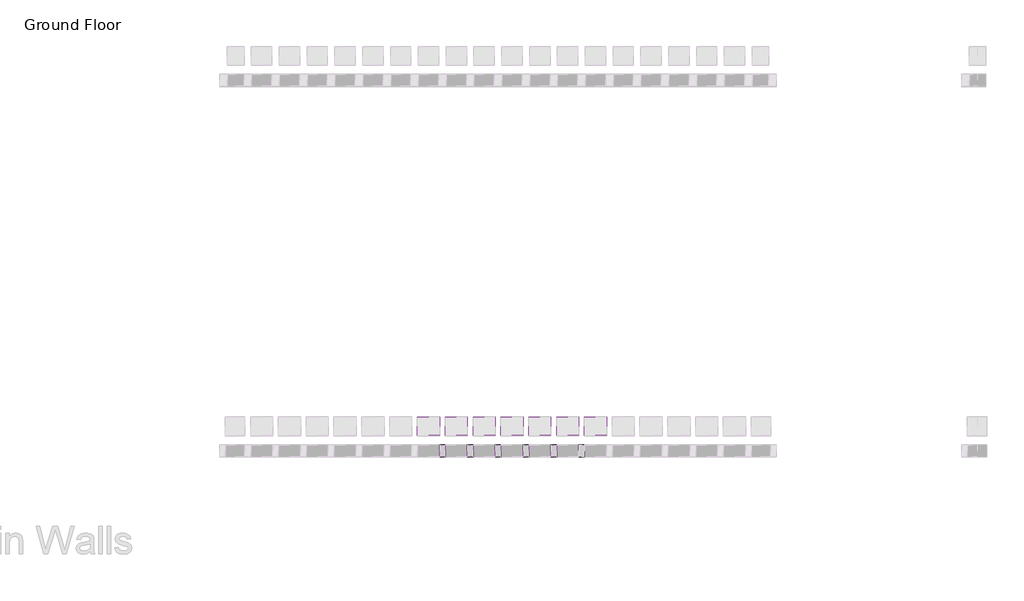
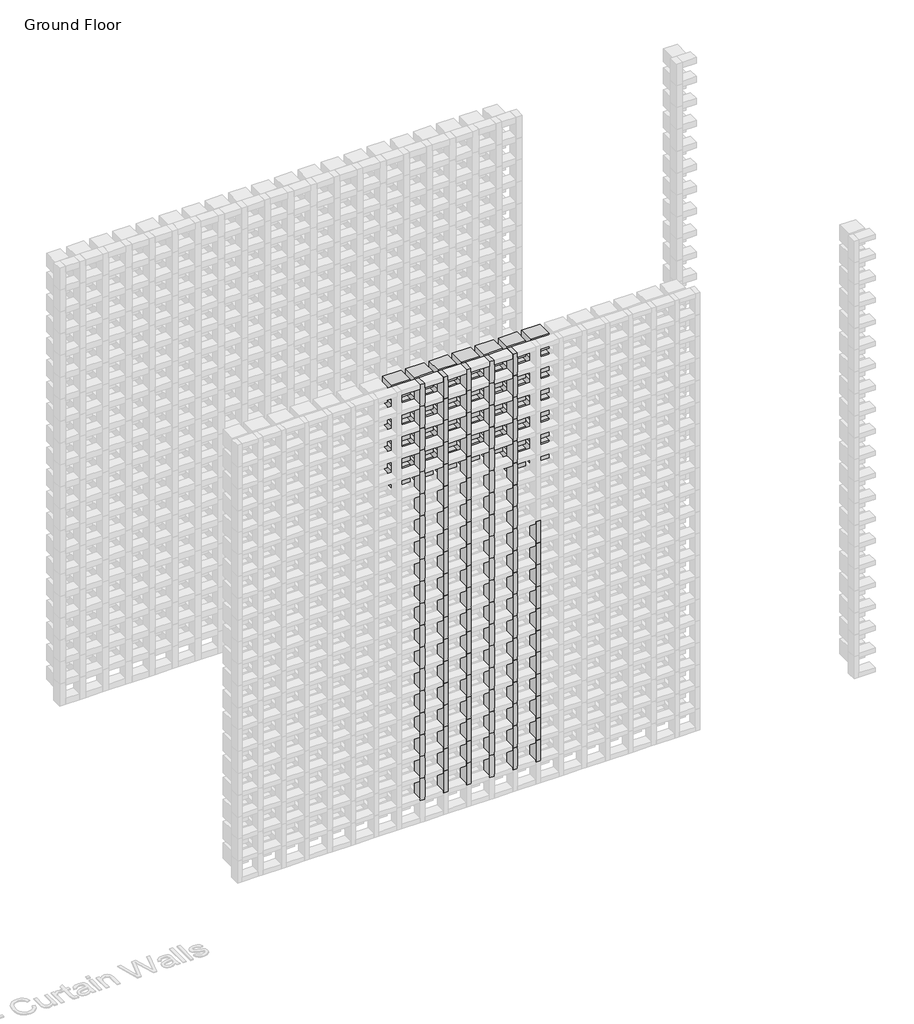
# One storey, part 59 of 350: 106 members, 37 plates.
"""IFC4 building model written with IfcOpenShell, lengths in millimetres."""

from ifc_helpers import new_model, si_unit, origin, place, context, project, spatial, transform, mapped, element, save
from components import rectangular_mullion_5b501421, empty_system_panel_empty_a57e421f, empty_system_panel_empty_fe50b430

model = new_model("IFC4")

# Units and contexts
model_context = context("Model", 3, world=origin())
ifc_project = project(units=[si_unit("LENGTHUNIT", "METRE", prefix="MILLI")], contexts=[model_context])

# Site, building, storey
site = spatial("IfcSite", under=ifc_project)
building = spatial("IfcBuilding", under=site)
storey = spatial("IfcBuildingStorey", under=building, Name="Ground Floor", Elevation=0.0)

# Members
placement = place(None, origin())
rectangular_mullion_shape = rectangular_mullion_5b501421(model_context)
element("IfcMember", 1, ObjectType="Rectangular Mullion : Batten_Timber_Modinex_Austratus_Grid_Fascia_30x65_Blackbutt", at=placement, inside=storey, context=model_context, shape_type="MappedRepresentation", body=[
    mapped(rectangular_mullion_shape, transform((7116.4361642, 38968.2978302, 150.0), x_axis=(1.0, 0.0, 0.0), y_axis=(0.0, -1.0, 0.0), z_axis=(0.0, 0.0, -1.0))),
])
element("IfcMember", 2, ObjectType="Rectangular Mullion : Batten_Timber_Modinex_Austratus_Grid_Fascia_30x65_Blackbutt", at=placement, inside=storey, context=model_context, shape_type="MappedRepresentation", body=[
    mapped(rectangular_mullion_shape, transform((7116.4361642, 38968.2978302, 300.0), x_axis=(1.0, 0.0, 0.0), y_axis=(0.0, -1.0, 0.0), z_axis=(0.0, 0.0, -1.0))),
])
element("IfcMember", 3, ObjectType="Rectangular Mullion : Batten_Timber_Modinex_Austratus_Grid_Fascia_30x65_Blackbutt", at=placement, inside=storey, context=model_context, shape_type="MappedRepresentation", body=[
    mapped(rectangular_mullion_shape, transform((7116.4361642, 38968.2978302, 450.0), x_axis=(1.0, 0.0, 0.0), y_axis=(0.0, -1.0, 0.0), z_axis=(0.0, 0.0, -1.0))),
])
element("IfcMember", 4, ObjectType="Rectangular Mullion : Batten_Timber_Modinex_Austratus_Grid_Fascia_30x65_Blackbutt", at=placement, inside=storey, context=model_context, shape_type="MappedRepresentation", body=[
    mapped(rectangular_mullion_shape, transform((7116.4361642, 38968.2978302, 600.0), x_axis=(1.0, 0.0, 0.0), y_axis=(0.0, -1.0, 0.0), z_axis=(0.0, 0.0, -1.0))),
])
element("IfcMember", 5, ObjectType="Rectangular Mullion : Batten_Timber_Modinex_Austratus_Grid_Fascia_30x65_Blackbutt", at=placement, inside=storey, context=model_context, shape_type="MappedRepresentation", body=[
    mapped(rectangular_mullion_shape, transform((7116.4361642, 38968.2978302, 750.0), x_axis=(1.0, 0.0, 0.0), y_axis=(0.0, -1.0, 0.0), z_axis=(0.0, 0.0, -1.0))),
])
element("IfcMember", 6, ObjectType="Rectangular Mullion : Batten_Timber_Modinex_Austratus_Grid_Fascia_30x65_Blackbutt", at=placement, inside=storey, context=model_context, shape_type="MappedRepresentation", body=[
    mapped(rectangular_mullion_shape, transform((7116.4361642, 38968.2978302, 900.0), x_axis=(1.0, 0.0, 0.0), y_axis=(0.0, -1.0, 0.0), z_axis=(0.0, 0.0, -1.0))),
])
element("IfcMember", 7, ObjectType="Rectangular Mullion : Batten_Timber_Modinex_Austratus_Grid_Fascia_30x65_Blackbutt", at=placement, inside=storey, context=model_context, shape_type="MappedRepresentation", body=[
    mapped(rectangular_mullion_shape, transform((7116.4361642, 38968.2978302, 1050.0), x_axis=(1.0, 0.0, 0.0), y_axis=(0.0, -1.0, 0.0), z_axis=(0.0, 0.0, -1.0))),
])
element("IfcMember", 8, ObjectType="Rectangular Mullion : Batten_Timber_Modinex_Austratus_Grid_Fascia_30x65_Blackbutt", at=placement, inside=storey, context=model_context, shape_type="MappedRepresentation", body=[
    mapped(rectangular_mullion_shape, transform((7116.4361642, 38968.2978302, 1200.0), x_axis=(1.0, 0.0, 0.0), y_axis=(0.0, -1.0, 0.0), z_axis=(0.0, 0.0, -1.0))),
])
element("IfcMember", 9, ObjectType="Rectangular Mullion : Batten_Timber_Modinex_Austratus_Grid_Fascia_30x65_Blackbutt", at=placement, inside=storey, context=model_context, shape_type="MappedRepresentation", body=[
    mapped(rectangular_mullion_shape, transform((7116.4361642, 38968.2978302, 1350.0), x_axis=(1.0, 0.0, 0.0), y_axis=(0.0, -1.0, 0.0), z_axis=(0.0, 0.0, -1.0))),
])
element("IfcMember", 10, ObjectType="Rectangular Mullion : Batten_Timber_Modinex_Austratus_Grid_Fascia_30x65_Blackbutt", at=placement, inside=storey, context=model_context, shape_type="MappedRepresentation", body=[
    mapped(rectangular_mullion_shape, transform((7116.4361642, 38968.2978302, 1500.0), x_axis=(1.0, 0.0, 0.0), y_axis=(0.0, -1.0, 0.0), z_axis=(0.0, 0.0, -1.0))),
])
element("IfcMember", 11, ObjectType="Rectangular Mullion : Batten_Timber_Modinex_Austratus_Grid_Fascia_30x65_Blackbutt", at=placement, inside=storey, context=model_context, shape_type="MappedRepresentation", body=[
    mapped(rectangular_mullion_shape, transform((7116.4361642, 38968.2978302, 1650.0), x_axis=(1.0, 0.0, 0.0), y_axis=(0.0, -1.0, 0.0), z_axis=(0.0, 0.0, -1.0))),
])
element("IfcMember", 12, ObjectType="Rectangular Mullion : Batten_Timber_Modinex_Austratus_Grid_Fascia_30x65_Blackbutt", at=placement, inside=storey, context=model_context, shape_type="MappedRepresentation", body=[
    mapped(rectangular_mullion_shape, transform((7116.4361642, 38968.2978302, 1800.0), x_axis=(1.0, 0.0, 0.0), y_axis=(0.0, -1.0, 0.0), z_axis=(0.0, 0.0, -1.0))),
])
element("IfcMember", 13, ObjectType="Rectangular Mullion : Batten_Timber_Modinex_Austratus_Grid_Fascia_30x65_Blackbutt", at=placement, inside=storey, context=model_context, shape_type="MappedRepresentation", body=[
    mapped(rectangular_mullion_shape, transform((7116.4361642, 38968.2978302, 1950.0), x_axis=(1.0, 0.0, 0.0), y_axis=(0.0, -1.0, 0.0), z_axis=(0.0, 0.0, -1.0))),
])
element("IfcMember", 14, ObjectType="Rectangular Mullion : Batten_Timber_Modinex_Austratus_Grid_Fascia_30x65_Blackbutt", at=placement, inside=storey, context=model_context, shape_type="MappedRepresentation", body=[
    mapped(rectangular_mullion_shape, transform((7116.4361642, 38968.2978302, 2100.0), x_axis=(1.0, 0.0, 0.0), y_axis=(0.0, -1.0, 0.0), z_axis=(0.0, 0.0, -1.0))),
])
element("IfcMember", 15, ObjectType="Rectangular Mullion : Batten_Timber_Modinex_Austratus_Grid_Fascia_30x65_Blackbutt", at=placement, inside=storey, context=model_context, shape_type="MappedRepresentation", body=[
    mapped(rectangular_mullion_shape, transform((7116.4361642, 38968.2978302, 2250.0), x_axis=(1.0, 0.0, 0.0), y_axis=(0.0, -1.0, 0.0), z_axis=(0.0, 0.0, -1.0))),
])
element("IfcMember", 16, ObjectType="Rectangular Mullion : Batten_Timber_Modinex_Austratus_Grid_Fascia_30x65_Blackbutt", at=placement, inside=storey, context=model_context, shape_type="MappedRepresentation", body=[
    mapped(rectangular_mullion_shape, transform((7116.4361642, 38968.2978302, 2400.0), x_axis=(1.0, 0.0, 0.0), y_axis=(0.0, -1.0, 0.0), z_axis=(0.0, 0.0, -1.0))),
])
element("IfcMember", 17, ObjectType="Rectangular Mullion : Batten_Timber_Modinex_Austratus_Grid_Fascia_30x65_Blackbutt", at=placement, inside=storey, context=model_context, shape_type="MappedRepresentation", body=[
    mapped(rectangular_mullion_shape, transform((7116.4361642, 38968.2978302, 2550.0), x_axis=(1.0, 0.0, 0.0), y_axis=(0.0, -1.0, 0.0), z_axis=(0.0, 0.0, -1.0))),
])
element("IfcMember", 18, ObjectType="Rectangular Mullion : Batten_Timber_Modinex_Austratus_Grid_Fascia_30x65_Blackbutt", at=placement, inside=storey, context=model_context, shape_type="MappedRepresentation", body=[
    mapped(rectangular_mullion_shape, transform((7116.4361642, 38968.2978302, 2700.0), x_axis=(1.0, 0.0, 0.0), y_axis=(0.0, -1.0, 0.0), z_axis=(0.0, 0.0, -1.0))),
])
element("IfcMember", 19, ObjectType="Rectangular Mullion : Batten_Timber_Modinex_Austratus_Grid_Fascia_30x65_Blackbutt", at=placement, inside=storey, context=model_context, shape_type="MappedRepresentation", body=[
    mapped(rectangular_mullion_shape, transform((7266.4361642, 38968.2978302, 150.0), x_axis=(1.0, 0.0, 0.0), y_axis=(0.0, -1.0, 0.0), z_axis=(0.0, 0.0, -1.0))),
])
element("IfcMember", 20, ObjectType="Rectangular Mullion : Batten_Timber_Modinex_Austratus_Grid_Fascia_30x65_Blackbutt", at=placement, inside=storey, context=model_context, shape_type="MappedRepresentation", body=[
    mapped(rectangular_mullion_shape, transform((7266.4361642, 38968.2978302, 300.0), x_axis=(1.0, 0.0, 0.0), y_axis=(0.0, -1.0, 0.0), z_axis=(0.0, 0.0, -1.0))),
])
element("IfcMember", 21, ObjectType="Rectangular Mullion : Batten_Timber_Modinex_Austratus_Grid_Fascia_30x65_Blackbutt", at=placement, inside=storey, context=model_context, shape_type="MappedRepresentation", body=[
    mapped(rectangular_mullion_shape, transform((7266.4361642, 38968.2978302, 450.0), x_axis=(1.0, 0.0, 0.0), y_axis=(0.0, -1.0, 0.0), z_axis=(0.0, 0.0, -1.0))),
])
element("IfcMember", 22, ObjectType="Rectangular Mullion : Batten_Timber_Modinex_Austratus_Grid_Fascia_30x65_Blackbutt", at=placement, inside=storey, context=model_context, shape_type="MappedRepresentation", body=[
    mapped(rectangular_mullion_shape, transform((7266.4361642, 38968.2978302, 600.0), x_axis=(1.0, 0.0, 0.0), y_axis=(0.0, -1.0, 0.0), z_axis=(0.0, 0.0, -1.0))),
])
element("IfcMember", 23, ObjectType="Rectangular Mullion : Batten_Timber_Modinex_Austratus_Grid_Fascia_30x65_Blackbutt", at=placement, inside=storey, context=model_context, shape_type="MappedRepresentation", body=[
    mapped(rectangular_mullion_shape, transform((7266.4361642, 38968.2978302, 750.0), x_axis=(1.0, 0.0, 0.0), y_axis=(0.0, -1.0, 0.0), z_axis=(0.0, 0.0, -1.0))),
])
element("IfcMember", 24, ObjectType="Rectangular Mullion : Batten_Timber_Modinex_Austratus_Grid_Fascia_30x65_Blackbutt", at=placement, inside=storey, context=model_context, shape_type="MappedRepresentation", body=[
    mapped(rectangular_mullion_shape, transform((7266.4361642, 38968.2978302, 900.0), x_axis=(1.0, 0.0, 0.0), y_axis=(0.0, -1.0, 0.0), z_axis=(0.0, 0.0, -1.0))),
])
element("IfcMember", 25, ObjectType="Rectangular Mullion : Batten_Timber_Modinex_Austratus_Grid_Fascia_30x65_Blackbutt", at=placement, inside=storey, context=model_context, shape_type="MappedRepresentation", body=[
    mapped(rectangular_mullion_shape, transform((7266.4361642, 38968.2978302, 1050.0), x_axis=(1.0, 0.0, 0.0), y_axis=(0.0, -1.0, 0.0), z_axis=(0.0, 0.0, -1.0))),
])
element("IfcMember", 26, ObjectType="Rectangular Mullion : Batten_Timber_Modinex_Austratus_Grid_Fascia_30x65_Blackbutt", at=placement, inside=storey, context=model_context, shape_type="MappedRepresentation", body=[
    mapped(rectangular_mullion_shape, transform((7266.4361642, 38968.2978302, 1200.0), x_axis=(1.0, 0.0, 0.0), y_axis=(0.0, -1.0, 0.0), z_axis=(0.0, 0.0, -1.0))),
])
element("IfcMember", 27, ObjectType="Rectangular Mullion : Batten_Timber_Modinex_Austratus_Grid_Fascia_30x65_Blackbutt", at=placement, inside=storey, context=model_context, shape_type="MappedRepresentation", body=[
    mapped(rectangular_mullion_shape, transform((7266.4361642, 38968.2978302, 1350.0), x_axis=(1.0, 0.0, 0.0), y_axis=(0.0, -1.0, 0.0), z_axis=(0.0, 0.0, -1.0))),
])
element("IfcMember", 28, ObjectType="Rectangular Mullion : Batten_Timber_Modinex_Austratus_Grid_Fascia_30x65_Blackbutt", at=placement, inside=storey, context=model_context, shape_type="MappedRepresentation", body=[
    mapped(rectangular_mullion_shape, transform((7266.4361642, 38968.2978302, 1500.0), x_axis=(1.0, 0.0, 0.0), y_axis=(0.0, -1.0, 0.0), z_axis=(0.0, 0.0, -1.0))),
])
element("IfcMember", 29, ObjectType="Rectangular Mullion : Batten_Timber_Modinex_Austratus_Grid_Fascia_30x65_Blackbutt", at=placement, inside=storey, context=model_context, shape_type="MappedRepresentation", body=[
    mapped(rectangular_mullion_shape, transform((7266.4361642, 38968.2978302, 1650.0), x_axis=(1.0, 0.0, 0.0), y_axis=(0.0, -1.0, 0.0), z_axis=(0.0, 0.0, -1.0))),
])
element("IfcMember", 30, ObjectType="Rectangular Mullion : Batten_Timber_Modinex_Austratus_Grid_Fascia_30x65_Blackbutt", at=placement, inside=storey, context=model_context, shape_type="MappedRepresentation", body=[
    mapped(rectangular_mullion_shape, transform((7266.4361642, 38968.2978302, 1800.0), x_axis=(1.0, 0.0, 0.0), y_axis=(0.0, -1.0, 0.0), z_axis=(0.0, 0.0, -1.0))),
])
element("IfcMember", 31, ObjectType="Rectangular Mullion : Batten_Timber_Modinex_Austratus_Grid_Fascia_30x65_Blackbutt", at=placement, inside=storey, context=model_context, shape_type="MappedRepresentation", body=[
    mapped(rectangular_mullion_shape, transform((7266.4361642, 38968.2978302, 1950.0), x_axis=(1.0, 0.0, 0.0), y_axis=(0.0, -1.0, 0.0), z_axis=(0.0, 0.0, -1.0))),
])
element("IfcMember", 32, ObjectType="Rectangular Mullion : Batten_Timber_Modinex_Austratus_Grid_Fascia_30x65_Blackbutt", at=placement, inside=storey, context=model_context, shape_type="MappedRepresentation", body=[
    mapped(rectangular_mullion_shape, transform((7266.4361642, 38968.2978302, 2100.0), x_axis=(1.0, 0.0, 0.0), y_axis=(0.0, -1.0, 0.0), z_axis=(0.0, 0.0, -1.0))),
])
element("IfcMember", 33, ObjectType="Rectangular Mullion : Batten_Timber_Modinex_Austratus_Grid_Fascia_30x65_Blackbutt", at=placement, inside=storey, context=model_context, shape_type="MappedRepresentation", body=[
    mapped(rectangular_mullion_shape, transform((7266.4361642, 38968.2978302, 2250.0), x_axis=(1.0, 0.0, 0.0), y_axis=(0.0, -1.0, 0.0), z_axis=(0.0, 0.0, -1.0))),
])
element("IfcMember", 34, ObjectType="Rectangular Mullion : Batten_Timber_Modinex_Austratus_Grid_Fascia_30x65_Blackbutt", at=placement, inside=storey, context=model_context, shape_type="MappedRepresentation", body=[
    mapped(rectangular_mullion_shape, transform((7266.4361642, 38968.2978302, 2400.0), x_axis=(1.0, 0.0, 0.0), y_axis=(0.0, -1.0, 0.0), z_axis=(0.0, 0.0, -1.0))),
])
element("IfcMember", 35, ObjectType="Rectangular Mullion : Batten_Timber_Modinex_Austratus_Grid_Fascia_30x65_Blackbutt", at=placement, inside=storey, context=model_context, shape_type="MappedRepresentation", body=[
    mapped(rectangular_mullion_shape, transform((7266.4361642, 38968.2978302, 2550.0), x_axis=(1.0, 0.0, 0.0), y_axis=(0.0, -1.0, 0.0), z_axis=(0.0, 0.0, -1.0))),
])
element("IfcMember", 36, ObjectType="Rectangular Mullion : Batten_Timber_Modinex_Austratus_Grid_Fascia_30x65_Blackbutt", at=placement, inside=storey, context=model_context, shape_type="MappedRepresentation", body=[
    mapped(rectangular_mullion_shape, transform((7266.4361642, 38968.2978302, 2700.0), x_axis=(1.0, 0.0, 0.0), y_axis=(0.0, -1.0, 0.0), z_axis=(0.0, 0.0, -1.0))),
])
element("IfcMember", 37, ObjectType="Rectangular Mullion : Batten_Timber_Modinex_Austratus_Grid_Fascia_30x65_Blackbutt", at=placement, inside=storey, context=model_context, shape_type="MappedRepresentation", body=[
    mapped(rectangular_mullion_shape, transform((7416.4361642, 38968.2978302, 150.0), x_axis=(1.0, 0.0, 0.0), y_axis=(0.0, -1.0, 0.0), z_axis=(0.0, 0.0, -1.0))),
])
element("IfcMember", 38, ObjectType="Rectangular Mullion : Batten_Timber_Modinex_Austratus_Grid_Fascia_30x65_Blackbutt", at=placement, inside=storey, context=model_context, shape_type="MappedRepresentation", body=[
    mapped(rectangular_mullion_shape, transform((7416.4361642, 38968.2978302, 300.0), x_axis=(1.0, 0.0, 0.0), y_axis=(0.0, -1.0, 0.0), z_axis=(0.0, 0.0, -1.0))),
])
element("IfcMember", 39, ObjectType="Rectangular Mullion : Batten_Timber_Modinex_Austratus_Grid_Fascia_30x65_Blackbutt", at=placement, inside=storey, context=model_context, shape_type="MappedRepresentation", body=[
    mapped(rectangular_mullion_shape, transform((7416.4361642, 38968.2978302, 450.0), x_axis=(1.0, 0.0, 0.0), y_axis=(0.0, -1.0, 0.0), z_axis=(0.0, 0.0, -1.0))),
])
element("IfcMember", 40, ObjectType="Rectangular Mullion : Batten_Timber_Modinex_Austratus_Grid_Fascia_30x65_Blackbutt", at=placement, inside=storey, context=model_context, shape_type="MappedRepresentation", body=[
    mapped(rectangular_mullion_shape, transform((7416.4361642, 38968.2978302, 600.0), x_axis=(1.0, 0.0, 0.0), y_axis=(0.0, -1.0, 0.0), z_axis=(0.0, 0.0, -1.0))),
])
element("IfcMember", 41, ObjectType="Rectangular Mullion : Batten_Timber_Modinex_Austratus_Grid_Fascia_30x65_Blackbutt", at=placement, inside=storey, context=model_context, shape_type="MappedRepresentation", body=[
    mapped(rectangular_mullion_shape, transform((7416.4361642, 38968.2978302, 750.0), x_axis=(1.0, 0.0, 0.0), y_axis=(0.0, -1.0, 0.0), z_axis=(0.0, 0.0, -1.0))),
])
element("IfcMember", 42, ObjectType="Rectangular Mullion : Batten_Timber_Modinex_Austratus_Grid_Fascia_30x65_Blackbutt", at=placement, inside=storey, context=model_context, shape_type="MappedRepresentation", body=[
    mapped(rectangular_mullion_shape, transform((7416.4361642, 38968.2978302, 900.0), x_axis=(1.0, 0.0, 0.0), y_axis=(0.0, -1.0, 0.0), z_axis=(0.0, 0.0, -1.0))),
])
element("IfcMember", 43, ObjectType="Rectangular Mullion : Batten_Timber_Modinex_Austratus_Grid_Fascia_30x65_Blackbutt", at=placement, inside=storey, context=model_context, shape_type="MappedRepresentation", body=[
    mapped(rectangular_mullion_shape, transform((7416.4361642, 38968.2978302, 1050.0), x_axis=(1.0, 0.0, 0.0), y_axis=(0.0, -1.0, 0.0), z_axis=(0.0, 0.0, -1.0))),
])
element("IfcMember", 44, ObjectType="Rectangular Mullion : Batten_Timber_Modinex_Austratus_Grid_Fascia_30x65_Blackbutt", at=placement, inside=storey, context=model_context, shape_type="MappedRepresentation", body=[
    mapped(rectangular_mullion_shape, transform((7416.4361642, 38968.2978302, 1200.0), x_axis=(1.0, 0.0, 0.0), y_axis=(0.0, -1.0, 0.0), z_axis=(0.0, 0.0, -1.0))),
])
element("IfcMember", 45, ObjectType="Rectangular Mullion : Batten_Timber_Modinex_Austratus_Grid_Fascia_30x65_Blackbutt", at=placement, inside=storey, context=model_context, shape_type="MappedRepresentation", body=[
    mapped(rectangular_mullion_shape, transform((7416.4361642, 38968.2978302, 1350.0), x_axis=(1.0, 0.0, 0.0), y_axis=(0.0, -1.0, 0.0), z_axis=(0.0, 0.0, -1.0))),
])
element("IfcMember", 46, ObjectType="Rectangular Mullion : Batten_Timber_Modinex_Austratus_Grid_Fascia_30x65_Blackbutt", at=placement, inside=storey, context=model_context, shape_type="MappedRepresentation", body=[
    mapped(rectangular_mullion_shape, transform((7416.4361642, 38968.2978302, 1500.0), x_axis=(1.0, 0.0, 0.0), y_axis=(0.0, -1.0, 0.0), z_axis=(0.0, 0.0, -1.0))),
])
element("IfcMember", 47, ObjectType="Rectangular Mullion : Batten_Timber_Modinex_Austratus_Grid_Fascia_30x65_Blackbutt", at=placement, inside=storey, context=model_context, shape_type="MappedRepresentation", body=[
    mapped(rectangular_mullion_shape, transform((7416.4361642, 38968.2978302, 1650.0), x_axis=(1.0, 0.0, 0.0), y_axis=(0.0, -1.0, 0.0), z_axis=(0.0, 0.0, -1.0))),
])
element("IfcMember", 48, ObjectType="Rectangular Mullion : Batten_Timber_Modinex_Austratus_Grid_Fascia_30x65_Blackbutt", at=placement, inside=storey, context=model_context, shape_type="MappedRepresentation", body=[
    mapped(rectangular_mullion_shape, transform((7416.4361642, 38968.2978302, 1800.0), x_axis=(1.0, 0.0, 0.0), y_axis=(0.0, -1.0, 0.0), z_axis=(0.0, 0.0, -1.0))),
])
element("IfcMember", 49, ObjectType="Rectangular Mullion : Batten_Timber_Modinex_Austratus_Grid_Fascia_30x65_Blackbutt", at=placement, inside=storey, context=model_context, shape_type="MappedRepresentation", body=[
    mapped(rectangular_mullion_shape, transform((7416.4361642, 38968.2978302, 1950.0), x_axis=(1.0, 0.0, 0.0), y_axis=(0.0, -1.0, 0.0), z_axis=(0.0, 0.0, -1.0))),
])
element("IfcMember", 50, ObjectType="Rectangular Mullion : Batten_Timber_Modinex_Austratus_Grid_Fascia_30x65_Blackbutt", at=placement, inside=storey, context=model_context, shape_type="MappedRepresentation", body=[
    mapped(rectangular_mullion_shape, transform((7416.4361642, 38968.2978302, 2100.0), x_axis=(1.0, 0.0, 0.0), y_axis=(0.0, -1.0, 0.0), z_axis=(0.0, 0.0, -1.0))),
])
element("IfcMember", 51, ObjectType="Rectangular Mullion : Batten_Timber_Modinex_Austratus_Grid_Fascia_30x65_Blackbutt", at=placement, inside=storey, context=model_context, shape_type="MappedRepresentation", body=[
    mapped(rectangular_mullion_shape, transform((7416.4361642, 38968.2978302, 2250.0), x_axis=(1.0, 0.0, 0.0), y_axis=(0.0, -1.0, 0.0), z_axis=(0.0, 0.0, -1.0))),
])
element("IfcMember", 52, ObjectType="Rectangular Mullion : Batten_Timber_Modinex_Austratus_Grid_Fascia_30x65_Blackbutt", at=placement, inside=storey, context=model_context, shape_type="MappedRepresentation", body=[
    mapped(rectangular_mullion_shape, transform((7416.4361642, 38968.2978302, 2400.0), x_axis=(1.0, 0.0, 0.0), y_axis=(0.0, -1.0, 0.0), z_axis=(0.0, 0.0, -1.0))),
])
element("IfcMember", 53, ObjectType="Rectangular Mullion : Batten_Timber_Modinex_Austratus_Grid_Fascia_30x65_Blackbutt", at=placement, inside=storey, context=model_context, shape_type="MappedRepresentation", body=[
    mapped(rectangular_mullion_shape, transform((7416.4361642, 38968.2978302, 2550.0), x_axis=(1.0, 0.0, 0.0), y_axis=(0.0, -1.0, 0.0), z_axis=(0.0, 0.0, -1.0))),
])
element("IfcMember", 54, ObjectType="Rectangular Mullion : Batten_Timber_Modinex_Austratus_Grid_Fascia_30x65_Blackbutt", at=placement, inside=storey, context=model_context, shape_type="MappedRepresentation", body=[
    mapped(rectangular_mullion_shape, transform((7416.4361642, 38968.2978302, 2700.0), x_axis=(1.0, 0.0, 0.0), y_axis=(0.0, -1.0, 0.0), z_axis=(0.0, 0.0, -1.0))),
])
element("IfcMember", 55, ObjectType="Rectangular Mullion : Batten_Timber_Modinex_Austratus_Grid_Fascia_30x65_Blackbutt", at=placement, inside=storey, context=model_context, shape_type="MappedRepresentation", body=[
    mapped(rectangular_mullion_shape, transform((7566.4361642, 38968.2978302, 150.0), x_axis=(1.0, 0.0, 0.0), y_axis=(0.0, -1.0, 0.0), z_axis=(0.0, 0.0, -1.0))),
])
element("IfcMember", 56, ObjectType="Rectangular Mullion : Batten_Timber_Modinex_Austratus_Grid_Fascia_30x65_Blackbutt", at=placement, inside=storey, context=model_context, shape_type="MappedRepresentation", body=[
    mapped(rectangular_mullion_shape, transform((7566.4361642, 38968.2978302, 300.0), x_axis=(1.0, 0.0, 0.0), y_axis=(0.0, -1.0, 0.0), z_axis=(0.0, 0.0, -1.0))),
])
element("IfcMember", 57, ObjectType="Rectangular Mullion : Batten_Timber_Modinex_Austratus_Grid_Fascia_30x65_Blackbutt", at=placement, inside=storey, context=model_context, shape_type="MappedRepresentation", body=[
    mapped(rectangular_mullion_shape, transform((7566.4361642, 38968.2978302, 450.0), x_axis=(1.0, 0.0, 0.0), y_axis=(0.0, -1.0, 0.0), z_axis=(0.0, 0.0, -1.0))),
])
element("IfcMember", 58, ObjectType="Rectangular Mullion : Batten_Timber_Modinex_Austratus_Grid_Fascia_30x65_Blackbutt", at=placement, inside=storey, context=model_context, shape_type="MappedRepresentation", body=[
    mapped(rectangular_mullion_shape, transform((7566.4361642, 38968.2978302, 600.0), x_axis=(1.0, 0.0, 0.0), y_axis=(0.0, -1.0, 0.0), z_axis=(0.0, 0.0, -1.0))),
])
element("IfcMember", 59, ObjectType="Rectangular Mullion : Batten_Timber_Modinex_Austratus_Grid_Fascia_30x65_Blackbutt", at=placement, inside=storey, context=model_context, shape_type="MappedRepresentation", body=[
    mapped(rectangular_mullion_shape, transform((7566.4361642, 38968.2978302, 750.0), x_axis=(1.0, 0.0, 0.0), y_axis=(0.0, -1.0, 0.0), z_axis=(0.0, 0.0, -1.0))),
])
element("IfcMember", 60, ObjectType="Rectangular Mullion : Batten_Timber_Modinex_Austratus_Grid_Fascia_30x65_Blackbutt", at=placement, inside=storey, context=model_context, shape_type="MappedRepresentation", body=[
    mapped(rectangular_mullion_shape, transform((7566.4361642, 38968.2978302, 900.0), x_axis=(1.0, 0.0, 0.0), y_axis=(0.0, -1.0, 0.0), z_axis=(0.0, 0.0, -1.0))),
])
element("IfcMember", 61, ObjectType="Rectangular Mullion : Batten_Timber_Modinex_Austratus_Grid_Fascia_30x65_Blackbutt", at=placement, inside=storey, context=model_context, shape_type="MappedRepresentation", body=[
    mapped(rectangular_mullion_shape, transform((7566.4361642, 38968.2978302, 1050.0), x_axis=(1.0, 0.0, 0.0), y_axis=(0.0, -1.0, 0.0), z_axis=(0.0, 0.0, -1.0))),
])
element("IfcMember", 62, ObjectType="Rectangular Mullion : Batten_Timber_Modinex_Austratus_Grid_Fascia_30x65_Blackbutt", at=placement, inside=storey, context=model_context, shape_type="MappedRepresentation", body=[
    mapped(rectangular_mullion_shape, transform((7566.4361642, 38968.2978302, 1200.0), x_axis=(1.0, 0.0, 0.0), y_axis=(0.0, -1.0, 0.0), z_axis=(0.0, 0.0, -1.0))),
])
element("IfcMember", 63, ObjectType="Rectangular Mullion : Batten_Timber_Modinex_Austratus_Grid_Fascia_30x65_Blackbutt", at=placement, inside=storey, context=model_context, shape_type="MappedRepresentation", body=[
    mapped(rectangular_mullion_shape, transform((7566.4361642, 38968.2978302, 1350.0), x_axis=(1.0, 0.0, 0.0), y_axis=(0.0, -1.0, 0.0), z_axis=(0.0, 0.0, -1.0))),
])
element("IfcMember", 64, ObjectType="Rectangular Mullion : Batten_Timber_Modinex_Austratus_Grid_Fascia_30x65_Blackbutt", at=placement, inside=storey, context=model_context, shape_type="MappedRepresentation", body=[
    mapped(rectangular_mullion_shape, transform((7566.4361642, 38968.2978302, 1500.0), x_axis=(1.0, 0.0, 0.0), y_axis=(0.0, -1.0, 0.0), z_axis=(0.0, 0.0, -1.0))),
])
element("IfcMember", 65, ObjectType="Rectangular Mullion : Batten_Timber_Modinex_Austratus_Grid_Fascia_30x65_Blackbutt", at=placement, inside=storey, context=model_context, shape_type="MappedRepresentation", body=[
    mapped(rectangular_mullion_shape, transform((7566.4361642, 38968.2978302, 1650.0), x_axis=(1.0, 0.0, 0.0), y_axis=(0.0, -1.0, 0.0), z_axis=(0.0, 0.0, -1.0))),
])
element("IfcMember", 66, ObjectType="Rectangular Mullion : Batten_Timber_Modinex_Austratus_Grid_Fascia_30x65_Blackbutt", at=placement, inside=storey, context=model_context, shape_type="MappedRepresentation", body=[
    mapped(rectangular_mullion_shape, transform((7566.4361642, 38968.2978302, 1800.0), x_axis=(1.0, 0.0, 0.0), y_axis=(0.0, -1.0, 0.0), z_axis=(0.0, 0.0, -1.0))),
])
element("IfcMember", 67, ObjectType="Rectangular Mullion : Batten_Timber_Modinex_Austratus_Grid_Fascia_30x65_Blackbutt", at=placement, inside=storey, context=model_context, shape_type="MappedRepresentation", body=[
    mapped(rectangular_mullion_shape, transform((7566.4361642, 38968.2978302, 1950.0), x_axis=(1.0, 0.0, 0.0), y_axis=(0.0, -1.0, 0.0), z_axis=(0.0, 0.0, -1.0))),
])
element("IfcMember", 68, ObjectType="Rectangular Mullion : Batten_Timber_Modinex_Austratus_Grid_Fascia_30x65_Blackbutt", at=placement, inside=storey, context=model_context, shape_type="MappedRepresentation", body=[
    mapped(rectangular_mullion_shape, transform((7566.4361642, 38968.2978302, 2100.0), x_axis=(1.0, 0.0, 0.0), y_axis=(0.0, -1.0, 0.0), z_axis=(0.0, 0.0, -1.0))),
])
element("IfcMember", 69, ObjectType="Rectangular Mullion : Batten_Timber_Modinex_Austratus_Grid_Fascia_30x65_Blackbutt", at=placement, inside=storey, context=model_context, shape_type="MappedRepresentation", body=[
    mapped(rectangular_mullion_shape, transform((7566.4361642, 38968.2978302, 2250.0), x_axis=(1.0, 0.0, 0.0), y_axis=(0.0, -1.0, 0.0), z_axis=(0.0, 0.0, -1.0))),
])
element("IfcMember", 70, ObjectType="Rectangular Mullion : Batten_Timber_Modinex_Austratus_Grid_Fascia_30x65_Blackbutt", at=placement, inside=storey, context=model_context, shape_type="MappedRepresentation", body=[
    mapped(rectangular_mullion_shape, transform((7566.4361642, 38968.2978302, 2400.0), x_axis=(1.0, 0.0, 0.0), y_axis=(0.0, -1.0, 0.0), z_axis=(0.0, 0.0, -1.0))),
])
element("IfcMember", 71, ObjectType="Rectangular Mullion : Batten_Timber_Modinex_Austratus_Grid_Fascia_30x65_Blackbutt", at=placement, inside=storey, context=model_context, shape_type="MappedRepresentation", body=[
    mapped(rectangular_mullion_shape, transform((7566.4361642, 38968.2978302, 2550.0), x_axis=(1.0, 0.0, 0.0), y_axis=(0.0, -1.0, 0.0), z_axis=(0.0, 0.0, -1.0))),
])
element("IfcMember", 72, ObjectType="Rectangular Mullion : Batten_Timber_Modinex_Austratus_Grid_Fascia_30x65_Blackbutt", at=placement, inside=storey, context=model_context, shape_type="MappedRepresentation", body=[
    mapped(rectangular_mullion_shape, transform((7566.4361642, 38968.2978302, 2700.0), x_axis=(1.0, 0.0, 0.0), y_axis=(0.0, -1.0, 0.0), z_axis=(0.0, 0.0, -1.0))),
])
element("IfcMember", 73, ObjectType="Rectangular Mullion : Batten_Timber_Modinex_Austratus_Grid_Fascia_30x65_Blackbutt", at=placement, inside=storey, context=model_context, shape_type="MappedRepresentation", body=[
    mapped(rectangular_mullion_shape, transform((7716.4361642, 38968.2978302, 150.0), x_axis=(1.0, 0.0, 0.0), y_axis=(0.0, -1.0, 0.0), z_axis=(0.0, 0.0, -1.0))),
])
element("IfcMember", 74, ObjectType="Rectangular Mullion : Batten_Timber_Modinex_Austratus_Grid_Fascia_30x65_Blackbutt", at=placement, inside=storey, context=model_context, shape_type="MappedRepresentation", body=[
    mapped(rectangular_mullion_shape, transform((7716.4361642, 38968.2978302, 300.0), x_axis=(1.0, 0.0, 0.0), y_axis=(0.0, -1.0, 0.0), z_axis=(0.0, 0.0, -1.0))),
])
element("IfcMember", 75, ObjectType="Rectangular Mullion : Batten_Timber_Modinex_Austratus_Grid_Fascia_30x65_Blackbutt", at=placement, inside=storey, context=model_context, shape_type="MappedRepresentation", body=[
    mapped(rectangular_mullion_shape, transform((7716.4361642, 38968.2978302, 450.0), x_axis=(1.0, 0.0, 0.0), y_axis=(0.0, -1.0, 0.0), z_axis=(0.0, 0.0, -1.0))),
])
element("IfcMember", 76, ObjectType="Rectangular Mullion : Batten_Timber_Modinex_Austratus_Grid_Fascia_30x65_Blackbutt", at=placement, inside=storey, context=model_context, shape_type="MappedRepresentation", body=[
    mapped(rectangular_mullion_shape, transform((7716.4361642, 38968.2978302, 600.0), x_axis=(1.0, 0.0, 0.0), y_axis=(0.0, -1.0, 0.0), z_axis=(0.0, 0.0, -1.0))),
])
element("IfcMember", 77, ObjectType="Rectangular Mullion : Batten_Timber_Modinex_Austratus_Grid_Fascia_30x65_Blackbutt", at=placement, inside=storey, context=model_context, shape_type="MappedRepresentation", body=[
    mapped(rectangular_mullion_shape, transform((7716.4361642, 38968.2978302, 750.0), x_axis=(1.0, 0.0, 0.0), y_axis=(0.0, -1.0, 0.0), z_axis=(0.0, 0.0, -1.0))),
])
element("IfcMember", 78, ObjectType="Rectangular Mullion : Batten_Timber_Modinex_Austratus_Grid_Fascia_30x65_Blackbutt", at=placement, inside=storey, context=model_context, shape_type="MappedRepresentation", body=[
    mapped(rectangular_mullion_shape, transform((7716.4361642, 38968.2978302, 900.0), x_axis=(1.0, 0.0, 0.0), y_axis=(0.0, -1.0, 0.0), z_axis=(0.0, 0.0, -1.0))),
])
element("IfcMember", 79, ObjectType="Rectangular Mullion : Batten_Timber_Modinex_Austratus_Grid_Fascia_30x65_Blackbutt", at=placement, inside=storey, context=model_context, shape_type="MappedRepresentation", body=[
    mapped(rectangular_mullion_shape, transform((7716.4361642, 38968.2978302, 1050.0), x_axis=(1.0, 0.0, 0.0), y_axis=(0.0, -1.0, 0.0), z_axis=(0.0, 0.0, -1.0))),
])
element("IfcMember", 80, ObjectType="Rectangular Mullion : Batten_Timber_Modinex_Austratus_Grid_Fascia_30x65_Blackbutt", at=placement, inside=storey, context=model_context, shape_type="MappedRepresentation", body=[
    mapped(rectangular_mullion_shape, transform((7716.4361642, 38968.2978302, 1200.0), x_axis=(1.0, 0.0, 0.0), y_axis=(0.0, -1.0, 0.0), z_axis=(0.0, 0.0, -1.0))),
])
element("IfcMember", 81, ObjectType="Rectangular Mullion : Batten_Timber_Modinex_Austratus_Grid_Fascia_30x65_Blackbutt", at=placement, inside=storey, context=model_context, shape_type="MappedRepresentation", body=[
    mapped(rectangular_mullion_shape, transform((7716.4361642, 38968.2978302, 1350.0), x_axis=(1.0, 0.0, 0.0), y_axis=(0.0, -1.0, 0.0), z_axis=(0.0, 0.0, -1.0))),
])
element("IfcMember", 82, ObjectType="Rectangular Mullion : Batten_Timber_Modinex_Austratus_Grid_Fascia_30x65_Blackbutt", at=placement, inside=storey, context=model_context, shape_type="MappedRepresentation", body=[
    mapped(rectangular_mullion_shape, transform((7716.4361642, 38968.2978302, 1500.0), x_axis=(1.0, 0.0, 0.0), y_axis=(0.0, -1.0, 0.0), z_axis=(0.0, 0.0, -1.0))),
])
element("IfcMember", 83, ObjectType="Rectangular Mullion : Batten_Timber_Modinex_Austratus_Grid_Fascia_30x65_Blackbutt", at=placement, inside=storey, context=model_context, shape_type="MappedRepresentation", body=[
    mapped(rectangular_mullion_shape, transform((7716.4361642, 38968.2978302, 1650.0), x_axis=(1.0, 0.0, 0.0), y_axis=(0.0, -1.0, 0.0), z_axis=(0.0, 0.0, -1.0))),
])
element("IfcMember", 84, ObjectType="Rectangular Mullion : Batten_Timber_Modinex_Austratus_Grid_Fascia_30x65_Blackbutt", at=placement, inside=storey, context=model_context, shape_type="MappedRepresentation", body=[
    mapped(rectangular_mullion_shape, transform((7716.4361642, 38968.2978302, 1800.0), x_axis=(1.0, 0.0, 0.0), y_axis=(0.0, -1.0, 0.0), z_axis=(0.0, 0.0, -1.0))),
])
element("IfcMember", 85, ObjectType="Rectangular Mullion : Batten_Timber_Modinex_Austratus_Grid_Fascia_30x65_Blackbutt", at=placement, inside=storey, context=model_context, shape_type="MappedRepresentation", body=[
    mapped(rectangular_mullion_shape, transform((7716.4361642, 38968.2978302, 1950.0), x_axis=(1.0, 0.0, 0.0), y_axis=(0.0, -1.0, 0.0), z_axis=(0.0, 0.0, -1.0))),
])
element("IfcMember", 86, ObjectType="Rectangular Mullion : Batten_Timber_Modinex_Austratus_Grid_Fascia_30x65_Blackbutt", at=placement, inside=storey, context=model_context, shape_type="MappedRepresentation", body=[
    mapped(rectangular_mullion_shape, transform((7716.4361642, 38968.2978302, 2100.0), x_axis=(1.0, 0.0, 0.0), y_axis=(0.0, -1.0, 0.0), z_axis=(0.0, 0.0, -1.0))),
])
element("IfcMember", 87, ObjectType="Rectangular Mullion : Batten_Timber_Modinex_Austratus_Grid_Fascia_30x65_Blackbutt", at=placement, inside=storey, context=model_context, shape_type="MappedRepresentation", body=[
    mapped(rectangular_mullion_shape, transform((7716.4361642, 38968.2978302, 2250.0), x_axis=(1.0, 0.0, 0.0), y_axis=(0.0, -1.0, 0.0), z_axis=(0.0, 0.0, -1.0))),
])
element("IfcMember", 88, ObjectType="Rectangular Mullion : Batten_Timber_Modinex_Austratus_Grid_Fascia_30x65_Blackbutt", at=placement, inside=storey, context=model_context, shape_type="MappedRepresentation", body=[
    mapped(rectangular_mullion_shape, transform((7716.4361642, 38968.2978302, 2400.0), x_axis=(1.0, 0.0, 0.0), y_axis=(0.0, -1.0, 0.0), z_axis=(0.0, 0.0, -1.0))),
])
element("IfcMember", 89, ObjectType="Rectangular Mullion : Batten_Timber_Modinex_Austratus_Grid_Fascia_30x65_Blackbutt", at=placement, inside=storey, context=model_context, shape_type="MappedRepresentation", body=[
    mapped(rectangular_mullion_shape, transform((7716.4361642, 38968.2978302, 2550.0), x_axis=(1.0, 0.0, 0.0), y_axis=(0.0, -1.0, 0.0), z_axis=(0.0, 0.0, -1.0))),
])
element("IfcMember", 90, ObjectType="Rectangular Mullion : Batten_Timber_Modinex_Austratus_Grid_Fascia_30x65_Blackbutt", at=placement, inside=storey, context=model_context, shape_type="MappedRepresentation", body=[
    mapped(rectangular_mullion_shape, transform((7716.4361642, 38968.2978302, 2700.0), x_axis=(1.0, 0.0, 0.0), y_axis=(0.0, -1.0, 0.0), z_axis=(0.0, 0.0, -1.0))),
])
element("IfcMember", 91, ObjectType="Rectangular Mullion : Batten_Timber_Modinex_Austratus_Grid_Fascia_30x65_Blackbutt", at=placement, inside=storey, context=model_context, shape_type="MappedRepresentation", body=[
    mapped(rectangular_mullion_shape, transform((7866.4361642, 38968.2978302, 150.0), x_axis=(1.0, 0.0, 0.0), y_axis=(0.0, -1.0, 0.0), z_axis=(0.0, 0.0, -1.0))),
])
element("IfcMember", 92, ObjectType="Rectangular Mullion : Batten_Timber_Modinex_Austratus_Grid_Fascia_30x65_Blackbutt", at=placement, inside=storey, context=model_context, shape_type="MappedRepresentation", body=[
    mapped(rectangular_mullion_shape, transform((7866.4361642, 38968.2978302, 300.0), x_axis=(1.0, 0.0, 0.0), y_axis=(0.0, -1.0, 0.0), z_axis=(0.0, 0.0, -1.0))),
])
element("IfcMember", 93, ObjectType="Rectangular Mullion : Batten_Timber_Modinex_Austratus_Grid_Fascia_30x65_Blackbutt", at=placement, inside=storey, context=model_context, shape_type="MappedRepresentation", body=[
    mapped(rectangular_mullion_shape, transform((7866.4361642, 38968.2978302, 450.0), x_axis=(1.0, 0.0, 0.0), y_axis=(0.0, -1.0, 0.0), z_axis=(0.0, 0.0, -1.0))),
])
element("IfcMember", 94, ObjectType="Rectangular Mullion : Batten_Timber_Modinex_Austratus_Grid_Fascia_30x65_Blackbutt", at=placement, inside=storey, context=model_context, shape_type="MappedRepresentation", body=[
    mapped(rectangular_mullion_shape, transform((7866.4361642, 38968.2978302, 600.0), x_axis=(1.0, 0.0, 0.0), y_axis=(0.0, -1.0, 0.0), z_axis=(0.0, 0.0, -1.0))),
])
element("IfcMember", 95, ObjectType="Rectangular Mullion : Batten_Timber_Modinex_Austratus_Grid_Fascia_30x65_Blackbutt", at=placement, inside=storey, context=model_context, shape_type="MappedRepresentation", body=[
    mapped(rectangular_mullion_shape, transform((7866.4361642, 38968.2978302, 750.0), x_axis=(1.0, 0.0, 0.0), y_axis=(0.0, -1.0, 0.0), z_axis=(0.0, 0.0, -1.0))),
])
element("IfcMember", 96, ObjectType="Rectangular Mullion : Batten_Timber_Modinex_Austratus_Grid_Fascia_30x65_Blackbutt", at=placement, inside=storey, context=model_context, shape_type="MappedRepresentation", body=[
    mapped(rectangular_mullion_shape, transform((7866.4361642, 38968.2978302, 900.0), x_axis=(1.0, 0.0, 0.0), y_axis=(0.0, -1.0, 0.0), z_axis=(0.0, 0.0, -1.0))),
])
element("IfcMember", 97, ObjectType="Rectangular Mullion : Batten_Timber_Modinex_Austratus_Grid_Fascia_30x65_Blackbutt", at=placement, inside=storey, context=model_context, shape_type="MappedRepresentation", body=[
    mapped(rectangular_mullion_shape, transform((7866.4361642, 38968.2978302, 1050.0), x_axis=(1.0, 0.0, 0.0), y_axis=(0.0, -1.0, 0.0), z_axis=(0.0, 0.0, -1.0))),
])
element("IfcMember", 98, ObjectType="Rectangular Mullion : Batten_Timber_Modinex_Austratus_Grid_Fascia_30x65_Blackbutt", at=placement, inside=storey, context=model_context, shape_type="MappedRepresentation", body=[
    mapped(rectangular_mullion_shape, transform((7866.4361642, 38968.2978302, 1200.0), x_axis=(1.0, 0.0, 0.0), y_axis=(0.0, -1.0, 0.0), z_axis=(0.0, 0.0, -1.0))),
])
element("IfcMember", 99, ObjectType="Rectangular Mullion : Batten_Timber_Modinex_Austratus_Grid_Fascia_30x65_Blackbutt", at=placement, inside=storey, context=model_context, shape_type="MappedRepresentation", body=[
    mapped(rectangular_mullion_shape, transform((7866.4361642, 38968.2978302, 1350.0), x_axis=(1.0, 0.0, 0.0), y_axis=(0.0, -1.0, 0.0), z_axis=(0.0, 0.0, -1.0))),
])
element("IfcMember", 100, ObjectType="Rectangular Mullion : Batten_Timber_Modinex_Austratus_Grid_Fascia_30x65_Blackbutt", at=placement, inside=storey, context=model_context, shape_type="MappedRepresentation", body=[
    mapped(rectangular_mullion_shape, transform((7866.4361642, 38968.2978302, 1500.0), x_axis=(1.0, 0.0, 0.0), y_axis=(0.0, -1.0, 0.0), z_axis=(0.0, 0.0, -1.0))),
])
element("IfcMember", 101, ObjectType="Rectangular Mullion : Batten_Timber_Modinex_Austratus_Grid_Fascia_30x65_Blackbutt", at=placement, inside=storey, context=model_context, shape_type="MappedRepresentation", body=[
    mapped(rectangular_mullion_shape, transform((7866.4361642, 38968.2978302, 1650.0), x_axis=(1.0, 0.0, 0.0), y_axis=(0.0, -1.0, 0.0), z_axis=(0.0, 0.0, -1.0))),
])
element("IfcMember", 102, ObjectType="Rectangular Mullion : Batten_Timber_Modinex_Austratus_Grid_Fascia_30x65_Blackbutt", at=placement, inside=storey, context=model_context, shape_type="MappedRepresentation", body=[
    mapped(rectangular_mullion_shape, transform((7116.4361642, 38968.2978302, 2850.0), x_axis=(1.0, 0.0, 0.0), y_axis=(0.0, -1.0, 0.0), z_axis=(0.0, 0.0, -1.0))),
])
element("IfcMember", 103, ObjectType="Rectangular Mullion : Batten_Timber_Modinex_Austratus_Grid_Fascia_30x65_Blackbutt", at=placement, inside=storey, context=model_context, shape_type="MappedRepresentation", body=[
    mapped(rectangular_mullion_shape, transform((7266.4361642, 38968.2978302, 2850.0), x_axis=(1.0, 0.0, 0.0), y_axis=(0.0, -1.0, 0.0), z_axis=(0.0, 0.0, -1.0))),
])
element("IfcMember", 104, ObjectType="Rectangular Mullion : Batten_Timber_Modinex_Austratus_Grid_Fascia_30x65_Blackbutt", at=placement, inside=storey, context=model_context, shape_type="MappedRepresentation", body=[
    mapped(rectangular_mullion_shape, transform((7416.4361642, 38968.2978302, 2850.0), x_axis=(1.0, 0.0, 0.0), y_axis=(0.0, -1.0, 0.0), z_axis=(0.0, 0.0, -1.0))),
])
element("IfcMember", 105, ObjectType="Rectangular Mullion : Batten_Timber_Modinex_Austratus_Grid_Fascia_30x65_Blackbutt", at=placement, inside=storey, context=model_context, shape_type="MappedRepresentation", body=[
    mapped(rectangular_mullion_shape, transform((7566.4361642, 38968.2978302, 2850.0), x_axis=(1.0, 0.0, 0.0), y_axis=(0.0, -1.0, 0.0), z_axis=(0.0, 0.0, -1.0))),
])
element("IfcMember", 106, ObjectType="Rectangular Mullion : Batten_Timber_Modinex_Austratus_Grid_Fascia_30x65_Blackbutt", at=placement, inside=storey, context=model_context, shape_type="MappedRepresentation", body=[
    mapped(rectangular_mullion_shape, transform((7716.4361642, 38968.2978302, 2850.0), x_axis=(1.0, 0.0, 0.0), y_axis=(0.0, -1.0, 0.0), z_axis=(0.0, 0.0, -1.0))),
])

# Plates
empty_system_panel_empty_shape = empty_system_panel_empty_a57e421f(model_context)
element("IfcPlate", 107, ObjectType="Empty System Panel : Empty", at=placement, inside=storey, context=model_context, shape_type="MappedRepresentation", body=[
    mapped(empty_system_panel_empty_shape, transform((7791.4361642, 38968.2978302, 2115.0), x_axis=(1.0, 0.0, 0.0), y_axis=(0.0, 1.0, 0.0), z_axis=(0.0, 0.0, 1.0))),
])
element("IfcPlate", 108, ObjectType="Empty System Panel : Empty", at=placement, inside=storey, context=model_context, shape_type="MappedRepresentation", body=[
    mapped(empty_system_panel_empty_shape, transform((7941.4361642, 38968.2978302, 2115.0), x_axis=(1.0, 0.0, 0.0), y_axis=(0.0, 1.0, 0.0), z_axis=(0.0, 0.0, 1.0))),
])
element("IfcPlate", 109, ObjectType="Empty System Panel : Empty", at=placement, inside=storey, context=model_context, shape_type="MappedRepresentation", body=[
    mapped(empty_system_panel_empty_shape, transform((7041.4361642, 38968.2978302, 2265.0), x_axis=(1.0, 0.0, 0.0), y_axis=(0.0, 1.0, 0.0), z_axis=(0.0, 0.0, 1.0))),
])
element("IfcPlate", 110, ObjectType="Empty System Panel : Empty", at=placement, inside=storey, context=model_context, shape_type="MappedRepresentation", body=[
    mapped(empty_system_panel_empty_shape, transform((7191.4361642, 38968.2978302, 2265.0), x_axis=(1.0, 0.0, 0.0), y_axis=(0.0, 1.0, 0.0), z_axis=(0.0, 0.0, 1.0))),
])
element("IfcPlate", 111, ObjectType="Empty System Panel : Empty", at=placement, inside=storey, context=model_context, shape_type="MappedRepresentation", body=[
    mapped(empty_system_panel_empty_shape, transform((7341.4361642, 38968.2978302, 2265.0), x_axis=(1.0, 0.0, 0.0), y_axis=(0.0, 1.0, 0.0), z_axis=(0.0, 0.0, 1.0))),
])
element("IfcPlate", 112, ObjectType="Empty System Panel : Empty", at=placement, inside=storey, context=model_context, shape_type="MappedRepresentation", body=[
    mapped(empty_system_panel_empty_shape, transform((7491.4361642, 38968.2978302, 2265.0), x_axis=(1.0, 0.0, 0.0), y_axis=(0.0, 1.0, 0.0), z_axis=(0.0, 0.0, 1.0))),
])
element("IfcPlate", 113, ObjectType="Empty System Panel : Empty", at=placement, inside=storey, context=model_context, shape_type="MappedRepresentation", body=[
    mapped(empty_system_panel_empty_shape, transform((7641.4361642, 38968.2978302, 2265.0), x_axis=(1.0, 0.0, 0.0), y_axis=(0.0, 1.0, 0.0), z_axis=(0.0, 0.0, 1.0))),
])
element("IfcPlate", 114, ObjectType="Empty System Panel : Empty", at=placement, inside=storey, context=model_context, shape_type="MappedRepresentation", body=[
    mapped(empty_system_panel_empty_shape, transform((7791.4361642, 38968.2978302, 2265.0), x_axis=(1.0, 0.0, 0.0), y_axis=(0.0, 1.0, 0.0), z_axis=(0.0, 0.0, 1.0))),
])
element("IfcPlate", 115, ObjectType="Empty System Panel : Empty", at=placement, inside=storey, context=model_context, shape_type="MappedRepresentation", body=[
    mapped(empty_system_panel_empty_shape, transform((7941.4361642, 38968.2978302, 2265.0), x_axis=(1.0, 0.0, 0.0), y_axis=(0.0, 1.0, 0.0), z_axis=(0.0, 0.0, 1.0))),
])
element("IfcPlate", 116, ObjectType="Empty System Panel : Empty", at=placement, inside=storey, context=model_context, shape_type="MappedRepresentation", body=[
    mapped(empty_system_panel_empty_shape, transform((7041.4361642, 38968.2978302, 2415.0), x_axis=(1.0, 0.0, 0.0), y_axis=(0.0, 1.0, 0.0), z_axis=(0.0, 0.0, 1.0))),
])
element("IfcPlate", 117, ObjectType="Empty System Panel : Empty", at=placement, inside=storey, context=model_context, shape_type="MappedRepresentation", body=[
    mapped(empty_system_panel_empty_shape, transform((7191.4361642, 38968.2978302, 2415.0), x_axis=(1.0, 0.0, 0.0), y_axis=(0.0, 1.0, 0.0), z_axis=(0.0, 0.0, 1.0))),
])
element("IfcPlate", 118, ObjectType="Empty System Panel : Empty", at=placement, inside=storey, context=model_context, shape_type="MappedRepresentation", body=[
    mapped(empty_system_panel_empty_shape, transform((7341.4361642, 38968.2978302, 2415.0), x_axis=(1.0, 0.0, 0.0), y_axis=(0.0, 1.0, 0.0), z_axis=(0.0, 0.0, 1.0))),
])
element("IfcPlate", 119, ObjectType="Empty System Panel : Empty", at=placement, inside=storey, context=model_context, shape_type="MappedRepresentation", body=[
    mapped(empty_system_panel_empty_shape, transform((7491.4361642, 38968.2978302, 2415.0), x_axis=(1.0, 0.0, 0.0), y_axis=(0.0, 1.0, 0.0), z_axis=(0.0, 0.0, 1.0))),
])
element("IfcPlate", 120, ObjectType="Empty System Panel : Empty", at=placement, inside=storey, context=model_context, shape_type="MappedRepresentation", body=[
    mapped(empty_system_panel_empty_shape, transform((7641.4361642, 38968.2978302, 2415.0), x_axis=(1.0, 0.0, 0.0), y_axis=(0.0, 1.0, 0.0), z_axis=(0.0, 0.0, 1.0))),
])
element("IfcPlate", 121, ObjectType="Empty System Panel : Empty", at=placement, inside=storey, context=model_context, shape_type="MappedRepresentation", body=[
    mapped(empty_system_panel_empty_shape, transform((7791.4361642, 38968.2978302, 2415.0), x_axis=(1.0, 0.0, 0.0), y_axis=(0.0, 1.0, 0.0), z_axis=(0.0, 0.0, 1.0))),
])
element("IfcPlate", 122, ObjectType="Empty System Panel : Empty", at=placement, inside=storey, context=model_context, shape_type="MappedRepresentation", body=[
    mapped(empty_system_panel_empty_shape, transform((7941.4361642, 38968.2978302, 2415.0), x_axis=(1.0, 0.0, 0.0), y_axis=(0.0, 1.0, 0.0), z_axis=(0.0, 0.0, 1.0))),
])
element("IfcPlate", 123, ObjectType="Empty System Panel : Empty", at=placement, inside=storey, context=model_context, shape_type="MappedRepresentation", body=[
    mapped(empty_system_panel_empty_shape, transform((7041.4361642, 38968.2978302, 2565.0), x_axis=(1.0, 0.0, 0.0), y_axis=(0.0, 1.0, 0.0), z_axis=(0.0, 0.0, 1.0))),
])
element("IfcPlate", 124, ObjectType="Empty System Panel : Empty", at=placement, inside=storey, context=model_context, shape_type="MappedRepresentation", body=[
    mapped(empty_system_panel_empty_shape, transform((7191.4361642, 38968.2978302, 2565.0), x_axis=(1.0, 0.0, 0.0), y_axis=(0.0, 1.0, 0.0), z_axis=(0.0, 0.0, 1.0))),
])
element("IfcPlate", 125, ObjectType="Empty System Panel : Empty", at=placement, inside=storey, context=model_context, shape_type="MappedRepresentation", body=[
    mapped(empty_system_panel_empty_shape, transform((7341.4361642, 38968.2978302, 2565.0), x_axis=(1.0, 0.0, 0.0), y_axis=(0.0, 1.0, 0.0), z_axis=(0.0, 0.0, 1.0))),
])
element("IfcPlate", 126, ObjectType="Empty System Panel : Empty", at=placement, inside=storey, context=model_context, shape_type="MappedRepresentation", body=[
    mapped(empty_system_panel_empty_shape, transform((7491.4361642, 38968.2978302, 2565.0), x_axis=(1.0, 0.0, 0.0), y_axis=(0.0, 1.0, 0.0), z_axis=(0.0, 0.0, 1.0))),
])
element("IfcPlate", 127, ObjectType="Empty System Panel : Empty", at=placement, inside=storey, context=model_context, shape_type="MappedRepresentation", body=[
    mapped(empty_system_panel_empty_shape, transform((7641.4361642, 38968.2978302, 2565.0), x_axis=(1.0, 0.0, 0.0), y_axis=(0.0, 1.0, 0.0), z_axis=(0.0, 0.0, 1.0))),
])
element("IfcPlate", 128, ObjectType="Empty System Panel : Empty", at=placement, inside=storey, context=model_context, shape_type="MappedRepresentation", body=[
    mapped(empty_system_panel_empty_shape, transform((7791.4361642, 38968.2978302, 2565.0), x_axis=(1.0, 0.0, 0.0), y_axis=(0.0, 1.0, 0.0), z_axis=(0.0, 0.0, 1.0))),
])
element("IfcPlate", 129, ObjectType="Empty System Panel : Empty", at=placement, inside=storey, context=model_context, shape_type="MappedRepresentation", body=[
    mapped(empty_system_panel_empty_shape, transform((7941.4361642, 38968.2978302, 2565.0), x_axis=(1.0, 0.0, 0.0), y_axis=(0.0, 1.0, 0.0), z_axis=(0.0, 0.0, 1.0))),
])
element("IfcPlate", 130, ObjectType="Empty System Panel : Empty", at=placement, inside=storey, context=model_context, shape_type="MappedRepresentation", body=[
    mapped(empty_system_panel_empty_shape, transform((7041.4361642, 38968.2978302, 2715.0), x_axis=(1.0, 0.0, 0.0), y_axis=(0.0, 1.0, 0.0), z_axis=(0.0, 0.0, 1.0))),
])
element("IfcPlate", 131, ObjectType="Empty System Panel : Empty", at=placement, inside=storey, context=model_context, shape_type="MappedRepresentation", body=[
    mapped(empty_system_panel_empty_shape, transform((7191.4361642, 38968.2978302, 2715.0), x_axis=(1.0, 0.0, 0.0), y_axis=(0.0, 1.0, 0.0), z_axis=(0.0, 0.0, 1.0))),
])
element("IfcPlate", 132, ObjectType="Empty System Panel : Empty", at=placement, inside=storey, context=model_context, shape_type="MappedRepresentation", body=[
    mapped(empty_system_panel_empty_shape, transform((7341.4361642, 38968.2978302, 2715.0), x_axis=(1.0, 0.0, 0.0), y_axis=(0.0, 1.0, 0.0), z_axis=(0.0, 0.0, 1.0))),
])
element("IfcPlate", 133, ObjectType="Empty System Panel : Empty", at=placement, inside=storey, context=model_context, shape_type="MappedRepresentation", body=[
    mapped(empty_system_panel_empty_shape, transform((7491.4361642, 38968.2978302, 2715.0), x_axis=(1.0, 0.0, 0.0), y_axis=(0.0, 1.0, 0.0), z_axis=(0.0, 0.0, 1.0))),
])
element("IfcPlate", 134, ObjectType="Empty System Panel : Empty", at=placement, inside=storey, context=model_context, shape_type="MappedRepresentation", body=[
    mapped(empty_system_panel_empty_shape, transform((7641.4361642, 38968.2978302, 2715.0), x_axis=(1.0, 0.0, 0.0), y_axis=(0.0, 1.0, 0.0), z_axis=(0.0, 0.0, 1.0))),
])
element("IfcPlate", 135, ObjectType="Empty System Panel : Empty", at=placement, inside=storey, context=model_context, shape_type="MappedRepresentation", body=[
    mapped(empty_system_panel_empty_shape, transform((7791.4361642, 38968.2978302, 2715.0), x_axis=(1.0, 0.0, 0.0), y_axis=(0.0, 1.0, 0.0), z_axis=(0.0, 0.0, 1.0))),
])
element("IfcPlate", 136, ObjectType="Empty System Panel : Empty", at=placement, inside=storey, context=model_context, shape_type="MappedRepresentation", body=[
    mapped(empty_system_panel_empty_shape, transform((7941.4361642, 38968.2978302, 2715.0), x_axis=(1.0, 0.0, 0.0), y_axis=(0.0, 1.0, 0.0), z_axis=(0.0, 0.0, 1.0))),
])
empty_system_panel_empty_2_shape = empty_system_panel_empty_fe50b430(model_context)
element("IfcPlate", 137, ObjectType="Empty System Panel : Empty", at=placement, inside=storey, context=model_context, shape_type="MappedRepresentation", body=[
    mapped(empty_system_panel_empty_2_shape, transform((7041.4361642, 38968.2978302, 2865.0), x_axis=(1.0, 0.0, 0.0), y_axis=(0.0, 1.0, 0.0), z_axis=(0.0, 0.0, 1.0))),
])
element("IfcPlate", 138, ObjectType="Empty System Panel : Empty", at=placement, inside=storey, context=model_context, shape_type="MappedRepresentation", body=[
    mapped(empty_system_panel_empty_2_shape, transform((7191.4361642, 38968.2978302, 2865.0), x_axis=(1.0, 0.0, 0.0), y_axis=(0.0, 1.0, 0.0), z_axis=(0.0, 0.0, 1.0))),
])
element("IfcPlate", 139, ObjectType="Empty System Panel : Empty", at=placement, inside=storey, context=model_context, shape_type="MappedRepresentation", body=[
    mapped(empty_system_panel_empty_2_shape, transform((7341.4361642, 38968.2978302, 2865.0), x_axis=(1.0, 0.0, 0.0), y_axis=(0.0, 1.0, 0.0), z_axis=(0.0, 0.0, 1.0))),
])
element("IfcPlate", 140, ObjectType="Empty System Panel : Empty", at=placement, inside=storey, context=model_context, shape_type="MappedRepresentation", body=[
    mapped(empty_system_panel_empty_2_shape, transform((7491.4361642, 38968.2978302, 2865.0), x_axis=(1.0, 0.0, 0.0), y_axis=(0.0, 1.0, 0.0), z_axis=(0.0, 0.0, 1.0))),
])
element("IfcPlate", 141, ObjectType="Empty System Panel : Empty", at=placement, inside=storey, context=model_context, shape_type="MappedRepresentation", body=[
    mapped(empty_system_panel_empty_2_shape, transform((7641.4361642, 38968.2978302, 2865.0), x_axis=(1.0, 0.0, 0.0), y_axis=(0.0, 1.0, 0.0), z_axis=(0.0, 0.0, 1.0))),
])
element("IfcPlate", 142, ObjectType="Empty System Panel : Empty", at=placement, inside=storey, context=model_context, shape_type="MappedRepresentation", body=[
    mapped(empty_system_panel_empty_2_shape, transform((7791.4361642, 38968.2978302, 2865.0), x_axis=(1.0, 0.0, 0.0), y_axis=(0.0, 1.0, 0.0), z_axis=(0.0, 0.0, 1.0))),
])
element("IfcPlate", 143, ObjectType="Empty System Panel : Empty", at=placement, inside=storey, context=model_context, shape_type="MappedRepresentation", body=[
    mapped(empty_system_panel_empty_2_shape, transform((7941.4361642, 38968.2978302, 2865.0), x_axis=(1.0, 0.0, 0.0), y_axis=(0.0, 1.0, 0.0), z_axis=(0.0, 0.0, 1.0))),
])

save(model, "model.ifc")
